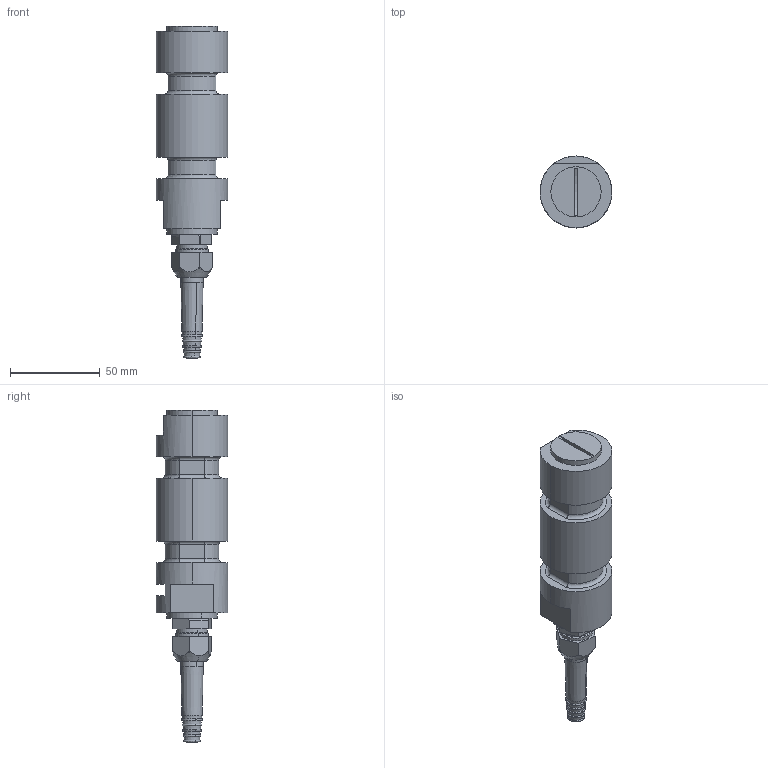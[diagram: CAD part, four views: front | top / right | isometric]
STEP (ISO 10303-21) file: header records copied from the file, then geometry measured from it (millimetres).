
FILE_DESCRIPTION (( 'STEP AP214' ), '1' );
FILE_NAME ('KOSD-40 20 kN Load Cell.STEP', '2021-03-15T09:55:41', ( '' ), ( '' ), 'SwSTEP 2.0', 'SolidWorks 2021', '' );
FILE_SCHEMA (( 'AUTOMOTIVE_DESIGN' ));
Length unit declared in the file: millimetre
Products named in the file (5): M26x1.5 - Pg9 - 6369829; KOSD-40 20 kN Load Cell; M26x1.5 - Lock - 600490r1; 4095968r4; Pg9 - 1009.52 6_2_14
Assembly tree (4 placements, depth 2):
  KOSD-40 20 kN Load Cell
    4095968r4
    M26x1.5 - Pg9 - 6369829
    Pg9 - 1009.52 6_2_14
    M26x1.5 - Lock - 600490r1
Bounding box: 40 x 40 x 185 mm (x, y, z)
Volume: 135149.4 mm3; surface area: 30565.9 mm2
Topology: 4 solids, 7 shells, 214 faces, 494 edges, 311 vertices
Faces by surface type: cylinder 76, plane 59, cone 45, torus 18, bspline 16
Entity records: 10994 total; most frequent: CARTESIAN_POINT 5640, ORIENTED_EDGE 984, DIRECTION 978, EDGE_CURVE 492, AXIS2_PLACEMENT_3D 412, VERTEX_POINT 311, EDGE_LOOP 243, ADVANCED_FACE 214
